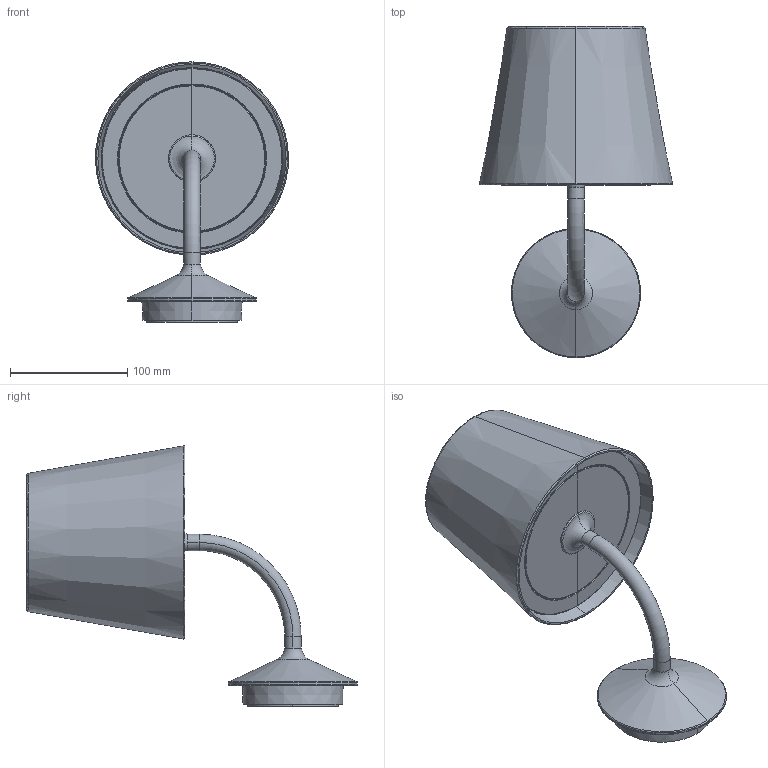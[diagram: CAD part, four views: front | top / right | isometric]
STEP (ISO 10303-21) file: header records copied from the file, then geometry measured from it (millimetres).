
FILE_DESCRIPTION(/* description */ (''),/* implementation_level */ '2;1');
FILE_NAME(/* name */ 'C:\Users\francosartori\Documents\Modelos\01_Digitalizados\0_TOC\03_Publicación\7080 - Vista 3D - Export.stp',/* time_stamp */ '2020-06-26T08:36:55+02:00',/* author */ ('FrancoSartori'),/* organization */ (''),/* preprocessor_version */ 'ST-DEVELOPER v18.1',/* originating_system */ 'AutoCAD Mechanical',/* authorisation */ '');
FILE_SCHEMA (('AUTOMOTIVE_DESIGN { 1 0 10303 214 3 1 1 }'));
Length unit declared in the file: millimetre
Products named in the file (2): Product; 70780_70781_TOC - TOC-445792-Export
Assembly tree (1 placements, depth 2):
  Product
    70780_70781_TOC - TOC-445792-Export
Bounding box: 164.57 x 282 x 221.82 mm (x, y, z)
Volume: 363397.5 mm3; surface area: 297547 mm2
Topology: 10 solids, 10 shells, 204 faces, 514 edges, 322 vertices
Faces by surface type: plane 76, cylinder 62, torus 46, cone 20
Entity records: 8653 total; most frequent: CARTESIAN_POINT 4013, ORIENTED_EDGE 1028, DIRECTION 836, EDGE_CURVE 514, AXIS2_PLACEMENT_3D 333, VERTEX_POINT 322, B_SPLINE_CURVE_WITH_KNOTS 218, EDGE_LOOP 214
